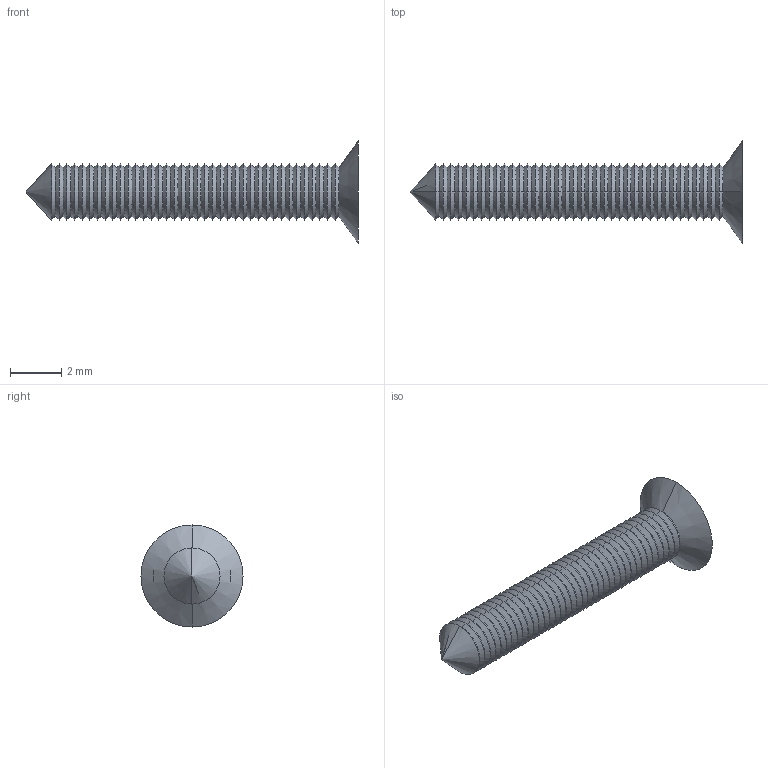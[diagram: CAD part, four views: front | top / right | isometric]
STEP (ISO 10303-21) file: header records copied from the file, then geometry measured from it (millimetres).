
FILE_DESCRIPTION (( 'STEP AP214' ), '1' );
FILE_NAME ('Cargol 2,2x13 PP10.STEP', '2017-07-19T09:03:03', ( 'aaa' ), ( '' ), 'SwSTEP 2.0', 'SolidWorks 2013', '' );
FILE_SCHEMA (( 'AUTOMOTIVE_DESIGN' ));
Length unit declared in the file: millimetre
Products named in the file (1): Cargol 2,2x13 PP10
Bounding box: 13 x 4 x 4 mm (x, y, z)
Volume: 43 mm3; surface area: 135.6 mm2
Topology: 1 solids, 1 shells, 168 faces, 346 edges, 179 vertices
Faces by surface type: cone 154, plane 14
Entity records: 4308 total; most frequent: DIRECTION 836, CARTESIAN_POINT 692, ORIENTED_EDGE 688, EDGE_CURVE 344, AXIS2_PLACEMENT_3D 323, VECTOR 190, LINE 190, VERTEX_POINT 179
